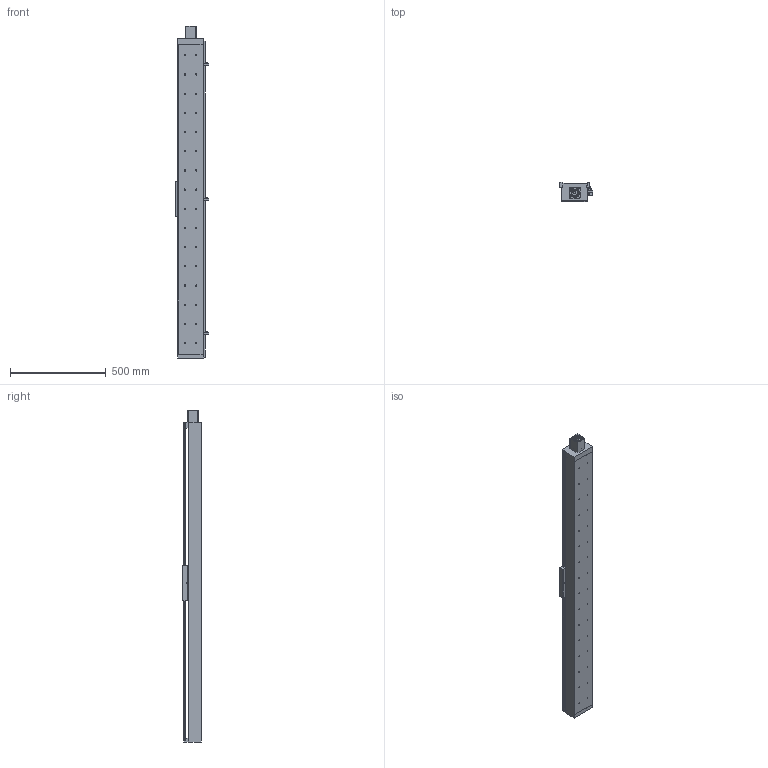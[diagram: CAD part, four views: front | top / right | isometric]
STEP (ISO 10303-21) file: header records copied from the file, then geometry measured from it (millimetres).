
FILE_DESCRIPTION((''),'2;1');
FILE_NAME('E:\libraries\UIA actuator library 2009\standard actuator\UIA136 ball screw 20\UIA136R15NDC stp file 27Apr16\UIA136R15NDC-1400-R20_ _-M60-P13-C10-S.stp','2016-04-27T15:53:31',('h029'),(''),'Autodesk Inventor 11','Autodesk Inventor 11','');
FILE_SCHEMA(('AUTOMOTIVE_DESIGN { 1 0 10303 214 1 1 1 1 }'));
Length unit declared in the file: millimetre
Products named in the file (10): UIA136R15NDC-1400; UIA136R15NDC-body; motor mount F60; SOH-32C; SOH-32C-3; SOH-32C-1; SOH-32C-2; Carriage; Sensor Switch; sensor rail
Assembly tree (9 placements, depth 3):
  UIA136R15NDC-1400
    UIA136R15NDC-body
    motor mount F60
    SOH-32C
      SOH-32C-3
      SOH-32C-1
      SOH-32C-2
    Carriage
    Sensor Switch
    sensor rail
Bounding box: 174.5 x 98 x 1730 mm (x, y, z)
Volume: 6141913.6 mm3; surface area: 1758098.2 mm2
Topology: 8 solids, 8 shells, 543 faces, 1401 edges, 921 vertices
Faces by surface type: plane 313, bspline 186, cylinder 40, cone 4
Full cylindrical faces by diameter (mm): 2.459 x2, 3.242 x2, 4.5 x2, 5.5 x3, 7.5 x2, 10 x2, 12 x1, 14 x1, 32 x3, 37 x1, 41.9 x1, 42.1 x1, 43.5 x1
Entity records: 17851 total; most frequent: CARTESIAN_POINT 5546, ORIENTED_EDGE 2346, DIRECTION 2282, EDGE_CURVE 1173, EDGE_LOOP 869, VERTEX_POINT 856, VECTOR 798, LINE 798
